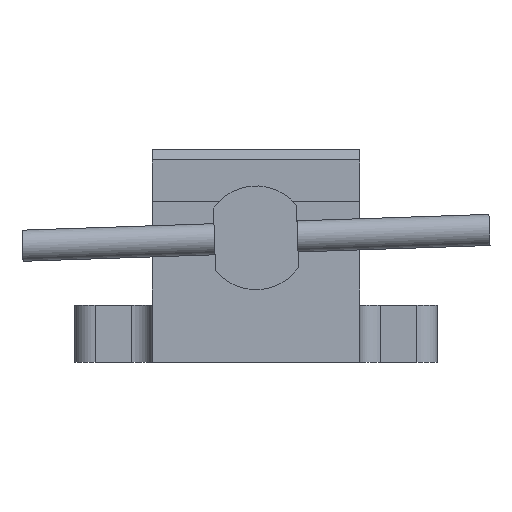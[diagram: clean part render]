
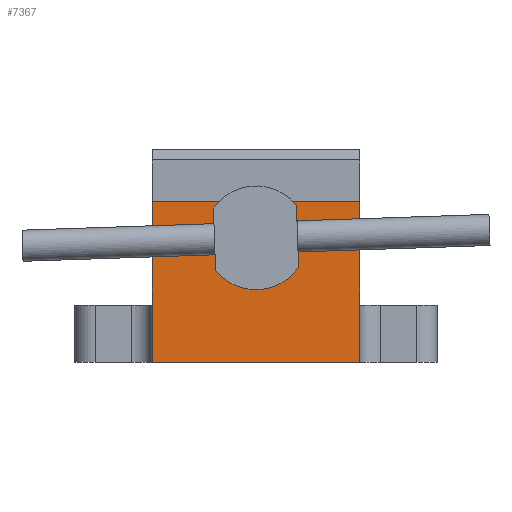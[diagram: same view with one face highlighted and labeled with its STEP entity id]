
A CAD part, left-side view. The second image highlights one B-rep face of the part: STEP entity #7367.
In plain terms, the highlighted planar face has unit normal (-1, 0, 0).
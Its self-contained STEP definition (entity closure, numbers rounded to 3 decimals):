
#912=FACE_BOUND('',#1562,.T.);
#1000=CIRCLE('',#7946,4.5);
#1131=FACE_OUTER_BOUND('',#1561,.T.);
#1561=EDGE_LOOP('',(#5361,#5362,#5363,#5364));
#1562=EDGE_LOOP('',(#5365));
#1951=LINE('',#10066,#2483);
#1964=LINE('',#10114,#2496);
#1981=LINE('',#10152,#2513);
#2028=LINE('',#10261,#2560);
#2483=VECTOR('',#8455,10.);
#2496=VECTOR('',#8498,10.);
#2513=VECTOR('',#8527,10.);
#2560=VECTOR('',#8618,10.);
#3025=VERTEX_POINT('',#10063);
#3026=VERTEX_POINT('',#10065);
#3044=VERTEX_POINT('',#10108);
#3046=VERTEX_POINT('',#10112);
#3132=VERTEX_POINT('',#10411);
#3800=EDGE_CURVE('',#3025,#3026,#1951,.T.);
#3823=EDGE_CURVE('',#3044,#3046,#1964,.T.);
#3842=EDGE_CURVE('',#3025,#3044,#1981,.T.);
#3899=EDGE_CURVE('',#3046,#3026,#2028,.T.);
#3973=EDGE_CURVE('',#3132,#3132,#1000,.T.);
#5361=ORIENTED_EDGE('',*,*,#3823,.T.);
#5362=ORIENTED_EDGE('',*,*,#3899,.T.);
#5363=ORIENTED_EDGE('',*,*,#3800,.F.);
#5364=ORIENTED_EDGE('',*,*,#3842,.T.);
#5365=ORIENTED_EDGE('',*,*,#3973,.T.);
#7227=PLANE('',#7951);
#7367=ADVANCED_FACE('',(#1131,#912),#7227,.T.);
#7946=AXIS2_PLACEMENT_3D('',#10412,#8803,#8804);
#7951=AXIS2_PLACEMENT_3D('',#10420,#8816,#8817);
#8455=DIRECTION('',(0.,1.,0.));
#8498=DIRECTION('',(0.,1.,0.));
#8527=DIRECTION('',(0.,0.,1.));
#8618=DIRECTION('',(0.,0.,-1.));
#8803=DIRECTION('center_axis',(1.,0.,0.));
#8804=DIRECTION('ref_axis',(0.,-1.,0.));
#8816=DIRECTION('center_axis',(-1.,0.,0.));
#8817=DIRECTION('ref_axis',(0.,0.,1.));
#10063=CARTESIAN_POINT('',(0.,0.,-1.));
#10065=CARTESIAN_POINT('',(0.,40.,-1.));
#10066=CARTESIAN_POINT('',(0.,0.,-1.));
#10108=CARTESIAN_POINT('',(0.,0.,30.));
#10112=CARTESIAN_POINT('',(0.,40.,30.));
#10114=CARTESIAN_POINT('',(0.,0.,30.));
#10152=CARTESIAN_POINT('',(0.,0.,0.));
#10261=CARTESIAN_POINT('',(0.,40.,0.));
#10411=CARTESIAN_POINT('',(0.,24.5,23.));
#10412=CARTESIAN_POINT('Origin',(0.,20.,23.));
#10420=CARTESIAN_POINT('Origin',(0.,0.,0.));
